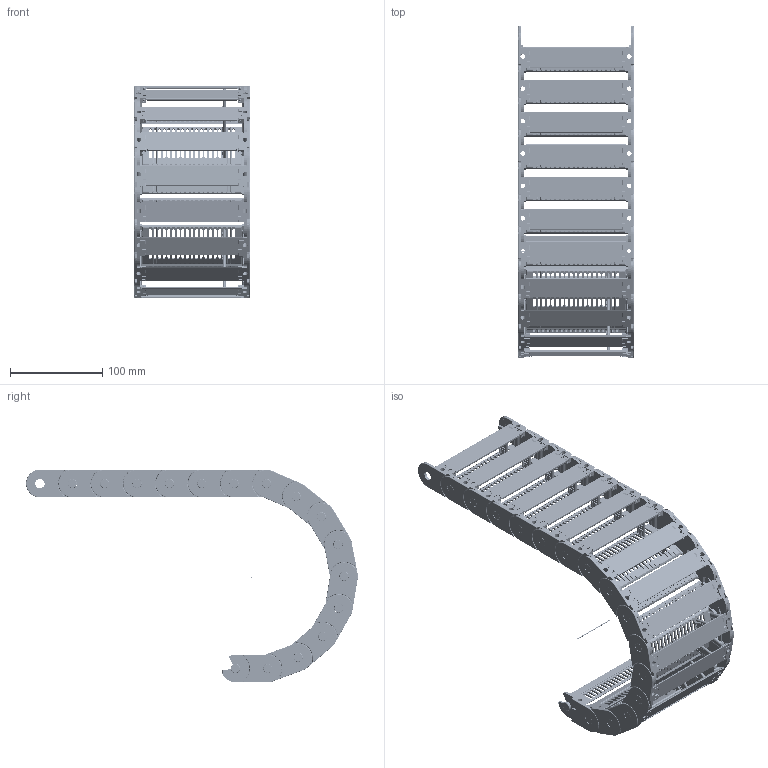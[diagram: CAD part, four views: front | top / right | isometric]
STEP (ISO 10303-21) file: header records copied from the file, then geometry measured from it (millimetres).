
FILE_DESCRIPTION((''),'2;1');
FILE_NAME('C:\Uebbing\PARAMETERKETTEN\KOLIBRI\Kol_30_125_1\Kol 30_125_1_R100.stp','2012-03-05T12:41:39',('Uebbing'),(''),'Autodesk Inventor 10','Autodesk Inventor 10','');
FILE_SCHEMA(('AUTOMOTIVE_DESIGN { 1 0 10303 214 1 1 1 1 }'));
Length unit declared in the file: millimetre
Products named in the file (6): KOLIBRI 30_125_1_PARAMETRISCH; Achse; Kol_30_125_1; PZ 30 Stecksteg; Kol 30_125_1 Lasche; Kol_30_125_0_Klappsteg
Assembly tree (20 placements, depth 3):
  KOLIBRI 30_125_1_PARAMETRISCH
    Achse
    Kol_30_125_1  x16
      PZ 30 Stecksteg
      Kol 30_125_1 Lasche
      Kol_30_125_0_Klappsteg
Bounding box: 125 x 358.89 x 230 mm (x, y, z)
Volume: 359106.4 mm3; surface area: 364593.8 mm2
Topology: 49 solids, 49 shells, 12483 faces, 35236 edges, 22963 vertices
Faces by surface type: plane 6210, bspline 2976, cylinder 2769, torus 384, cone 96, sphere 48
Full cylindrical faces by diameter (mm): 1 x1, 1.166 x16, 2.048 x16, 2.8 x96, 5.1 x16, 10 x16, 10.1 x16
Entity records: 28393 total; most frequent: CARTESIAN_POINT 8233, ORIENTED_EDGE 4324, DIRECTION 3968, EDGE_CURVE 2162, VECTOR 1442, LINE 1442, VERTEX_POINT 1424, AXIS2_PLACEMENT_3D 1263
